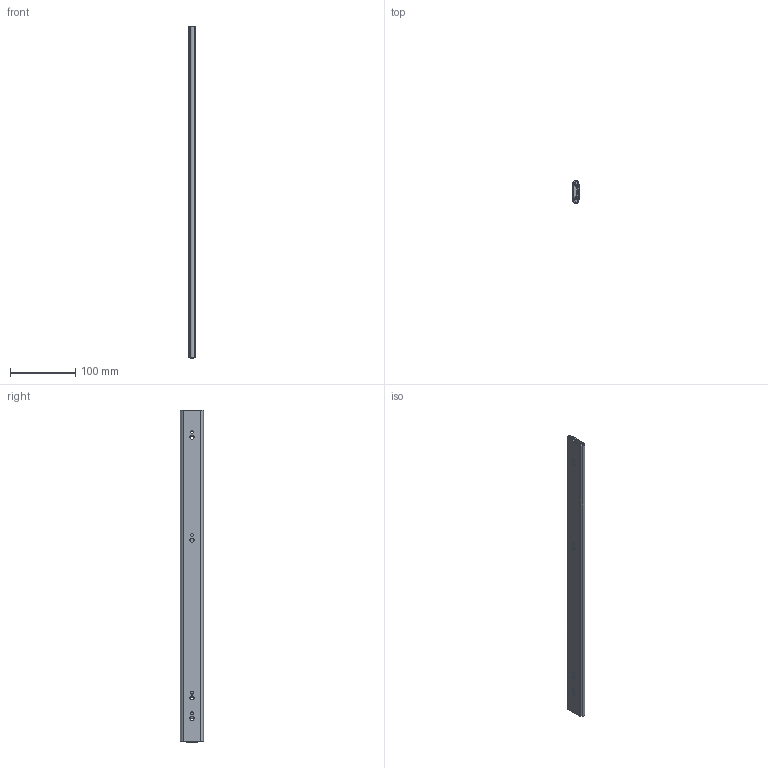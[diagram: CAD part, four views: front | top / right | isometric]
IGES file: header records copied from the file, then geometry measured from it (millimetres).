
Global section: file name: DR_L2-500; native system: Autodesk Inventor 2015; preprocessor: unknown; author: user; date: 20170928.110646; units: millimetre
Bounding box: 9.55 x 35.3 x 509 mm (x, y, z)
Volume: 71766.7 mm3; surface area: 102699.9 mm2
Topology: 3 solids, 3 shells, 112 faces, 313 edges, 208 vertices
Faces by surface type: bspline 112
